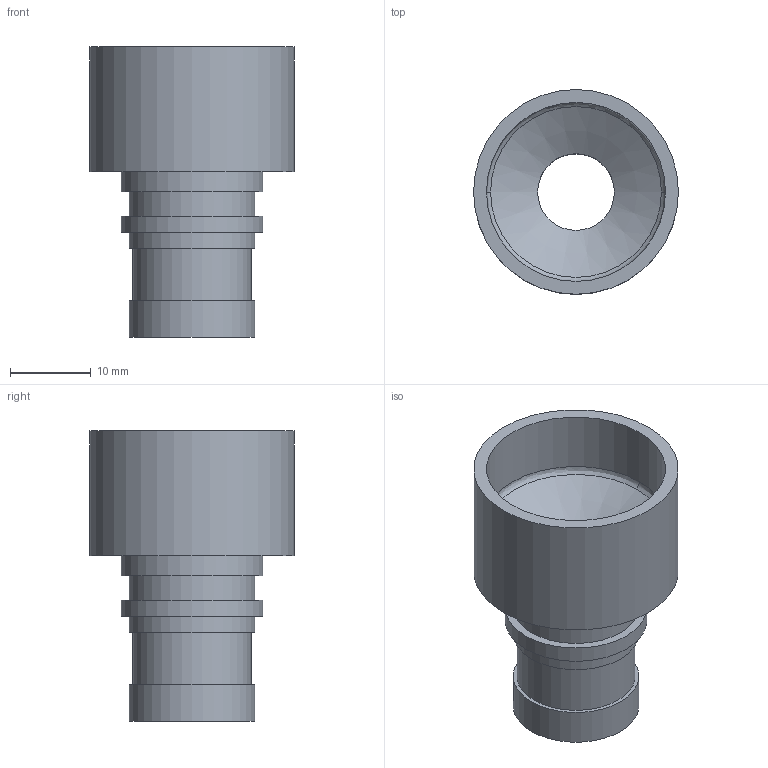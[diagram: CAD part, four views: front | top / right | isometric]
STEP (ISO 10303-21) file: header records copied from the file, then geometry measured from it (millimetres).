
FILE_DESCRIPTION (( 'STEP AP203' ), '1' );
FILE_NAME ('70-12.7R25.4-PH.STEP', '2013-09-19T10:47:25', ( '' ), ( '' ), 'SwSTEP 2.0', 'SolidWorks 2012', '' );
FILE_SCHEMA (( 'CONFIG_CONTROL_DESIGN' ));
Length unit declared in the file: millimetre
Products named in the file (1): 70-12.7R25.4-PH
Bounding box: 25.4 x 25.4 x 36 mm (x, y, z)
Volume: 5886 mm3; surface area: 4666.8 mm2
Topology: 1 solids, 1 shells, 22 faces, 37 edges, 24 vertices
Faces by surface type: cylinder 10, plane 9, bspline 2, cone 1
Full cylindrical faces by diameter (mm): 9.5 x1, 12.65 x1, 14.65 x1, 15.6 x3, 17.6 x2, 22.2 x1, 25.4 x1
Entity records: 567 total; most frequent: CARTESIAN_POINT 107, DIRECTION 88, ORIENTED_EDGE 50, AXIS2_PLACEMENT_3D 44, EDGE_LOOP 42, FACE_OUTER_BOUND 32, EDGE_CURVE 25, CIRCLE 23
